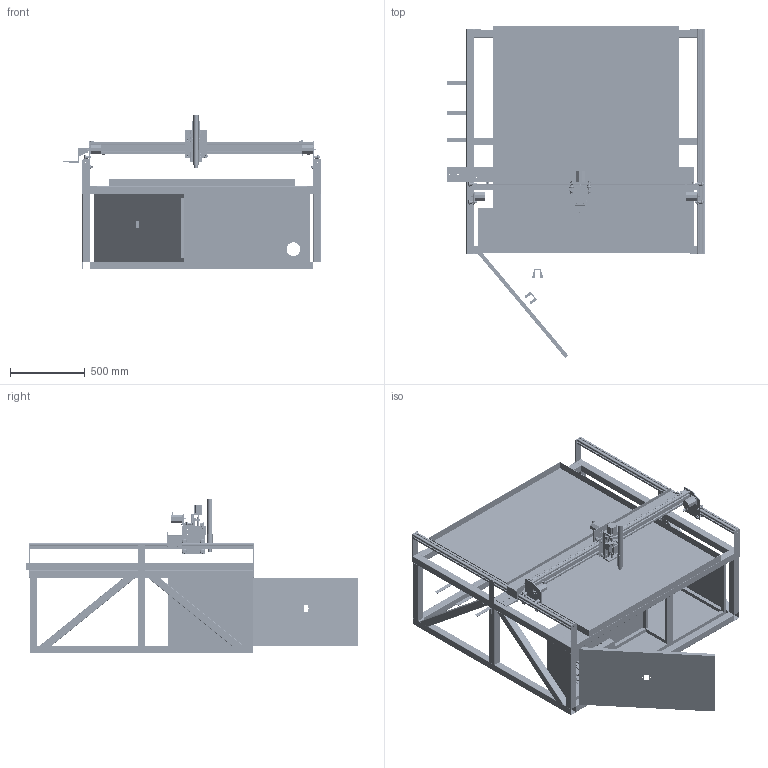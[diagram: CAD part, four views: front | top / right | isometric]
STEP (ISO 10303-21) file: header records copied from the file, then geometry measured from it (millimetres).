
FILE_DESCRIPTION(/* description */ (''),/* implementation_level */ '2;1');
FILE_NAME(/* name */ 'PlsamaMediaHojaGarageCreativo3D.step',/* time_stamp */ '2025-12-05T12:29:09-06:00',/* author */ (''),/* organization */ (''),/* preprocessor_version */ 'ST-DEVELOPER v20.1',/* originating_system */ 'Autodesk Translation Framework v14.21.0.0',/* authorisation */ '');
FILE_SCHEMA (('AUTOMOTIVE_DESIGN { 1 0 10303 214 3 1 1 }'));
Products named in the file (178): PlsamaMediaHoja; CNC Plasma Garage Creativo; Mesa; Orejas; PerfilAluminioY; TubosInferior; TubosSuperior; Travesanos; OrejasLaterales; ladoB; cajon; puerta; Tapa; Puente; ejeZ; Eje Z Comercial; nema 23; Componente2; Componente3; guia; patin; Perfil20x80; inferior; superior; bloke; guia_1; patin_1; Componente6; Componente11; Componente10; Componente8; Componente7; Componente9; Componente12; Componente13; guia (1); Componente19; Componente20; ejeX; setTornillos3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
Assembly tree (445 placements, depth 8):
  PlsamaMediaHoja
    CNC Plasma Garage Creativo
      Mesa
        ladoB  x2
        Orejas
        PerfilAluminioY
        TubosInferior
        TubosSuperior
        Travesanos
        OrejasLaterales
      cajon
        puerta
        Tapa
      Puente
        ejeZ
          Eje Z Comercial
            nema 23
              Componente2
              Componente3
            guia
              patin
                Componente6
                Componente11
                Componente10
                Componente8
                Componente7
                Componente9
                Componente12
                Componente13
              guia (1)
            Perfil20x80
            inferior
            superior
            bloke
            guia_1
              patin_1
                Componente6
                Componente11
                Componente10
                Componente8
                Componente7
                Componente9
                Componente12
                Componente13
              guia (1)
            Componente19
            Componente20
        ejeX
          setTornillos3
            M8x70
            espaciador (1)
            rueda 608zz v2
              Componente4
              Componente5
            arandela (1)  x2
            balero 8bore 22 radio 608rs v1  x2
            tuerca m8  x2
          setTornillos3_1
            M8x70
            espaciador (1)
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Bounding box: 1737.9 x 2226.96 x 1038.92 mm (x, y, z)
Volume: 18556363.4 mm3; surface area: 25067340.5 mm2
Topology: 459 solids, 459 shells, 32121 faces, 72206 edges, 41536 vertices
Faces by surface type: plane 22514, cylinder 5737, torus 2032, bspline 1216, cone 602, sphere 20
Full cylindrical faces by diameter (mm): 1 x68, 1.146 x36, 1.288 x10, 1.6 x42, 2 x2, 2.14 x6, 2.35 x72, 2.5 x62, 2.6 x8, 2.603 x8, 3 x144, 3.2 x2, 3.242 x12, 3.5 x16, 3.8 x96, 4 x30, 4.2 x8, 4.3 x6, 4.5 x6, 5 x50, 5.5 x4, 5.9 x2, 6 x41, 6.3 x8, 6.35 x4, 6.376 x344, 6.701 x72, 6.8 x4, 8 x529, 8.051 x120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
Entity records: 849294 total; most frequent: CARTESIAN_POINT 374013, ORIENTED_EDGE 96188, DIRECTION 94660, EDGE_CURVE 48094, LINE 32980, VECTOR 32980, AXIS2_PLACEMENT_3D 30840, VERTEX_POINT 25719
